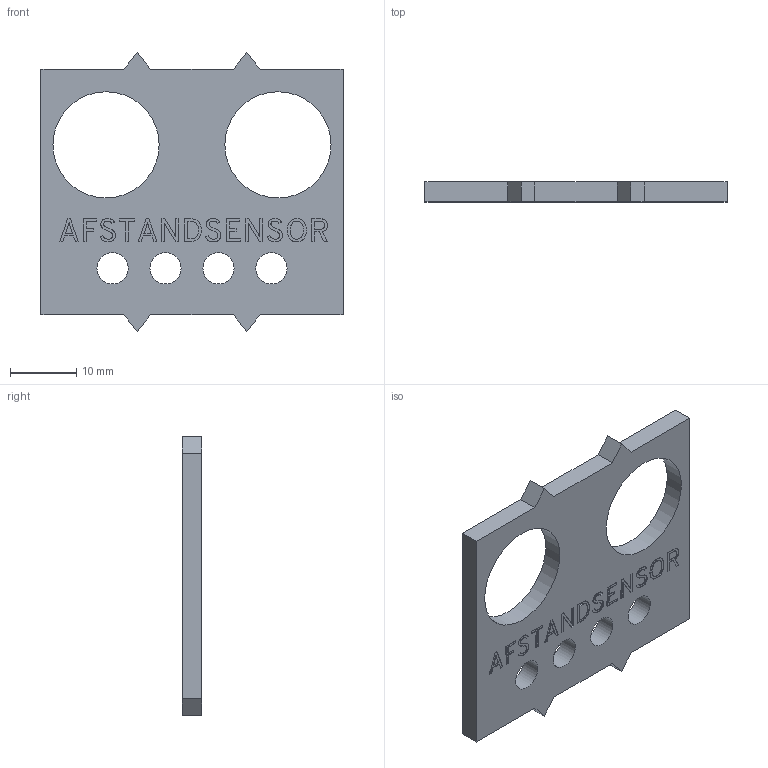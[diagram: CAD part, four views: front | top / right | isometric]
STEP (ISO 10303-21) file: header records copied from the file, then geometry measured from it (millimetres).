
FILE_DESCRIPTION(('FreeCAD Model'),'2;1');
FILE_NAME('Open CASCADE Shape Model','2024-06-26T11:40:26',('FreeCAD'),( 'FreeCAD'),'Open CASCADE STEP processor 7.6','FreeCAD','Unknown');
FILE_SCHEMA(('AUTOMOTIVE_DESIGN { 1 0 10303 214 1 1 1 1 }'));
Length unit declared in the file: millimetre
Products named in the file (1): Open CASCADE STEP translator 7.6 10
Bounding box: 45.5 x 3 x 42 mm (x, y, z)
Volume: 3691.6 mm3; surface area: 3488.1 mm2
Topology: 1 solids, 1 shells, 327 faces, 921 edges, 614 vertices
Faces by surface type: extrusion 190, plane 131, cylinder 6
Full cylindrical faces by diameter (mm): 4.7 x4, 16 x2
Entity records: 10761 total; most frequent: CARTESIAN_POINT 3003, ORIENTED_EDGE 1842, DIRECTION 1019, EDGE_CURVE 921, VECTOR 719, VERTEX_POINT 614, B_SPLINE_CURVE_WITH_KNOTS 570, LINE 529
